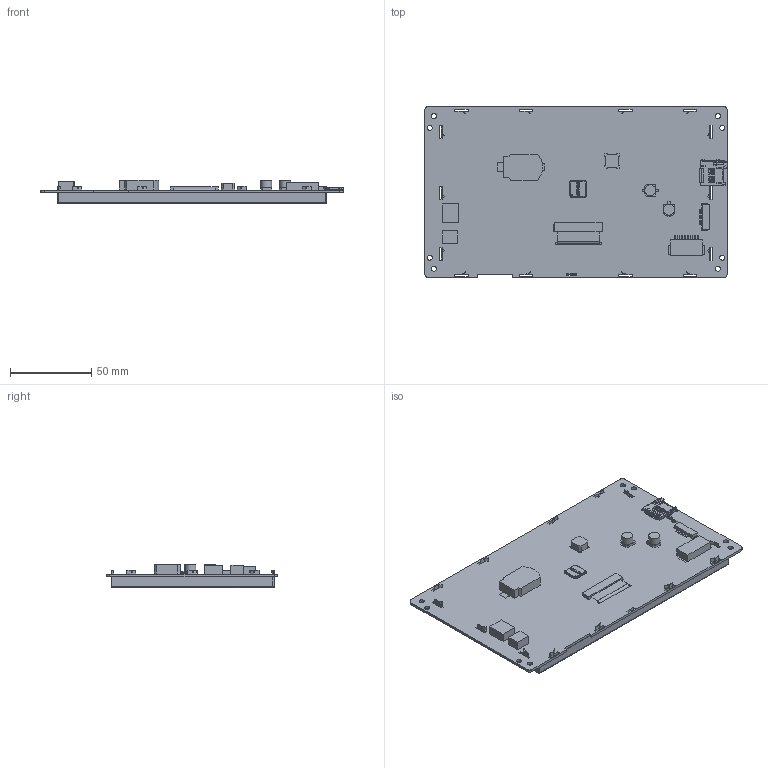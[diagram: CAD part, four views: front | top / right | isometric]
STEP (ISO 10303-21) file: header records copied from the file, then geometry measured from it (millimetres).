
FILE_DESCRIPTION(/* description */ (''),/* implementation_level */ '2;1');
FILE_NAME(/* name */ '',/* time_stamp */ '2021-07-22T10:28:38+08:00',/* author */ (''),/* organization */ (''),/* preprocessor_version */ 'ST-DEVELOPER v11',/* originating_system */ 'SIEMENS PLM Software NX 7.5',/* authorisation */ '');
FILE_SCHEMA (('AP203_CONFIGURATION_CONTROLLED_3D_DESIGN_OF_MECHANICAL_PARTS_AND_ASSEMBLIES_MIM_LF'));
Products named in the file (1): b070T84V01N
Bounding box: 186.3 x 105.4 x 14.31 mm (x, y, z)
Volume: 221127.4 mm3; surface area: 120754.1 mm2
Topology: 18 solids, 18 shells, 2447 faces, 7071 edges, 4675 vertices
Faces by surface type: plane 2002, cylinder 437, bspline 7, cone 1
Full cylindrical faces by diameter (mm): 3.2 x8, 6.776 x2
Entity records: 81955 total; most frequent: CARTESIAN_POINT 14796, ORIENTED_EDGE 14016, DIRECTION 12724, EDGE_CURVE 7008, LINE 6114, VECTOR 6114, VERTEX_POINT 4598, AXIS2_PLACEMENT_3D 3305
